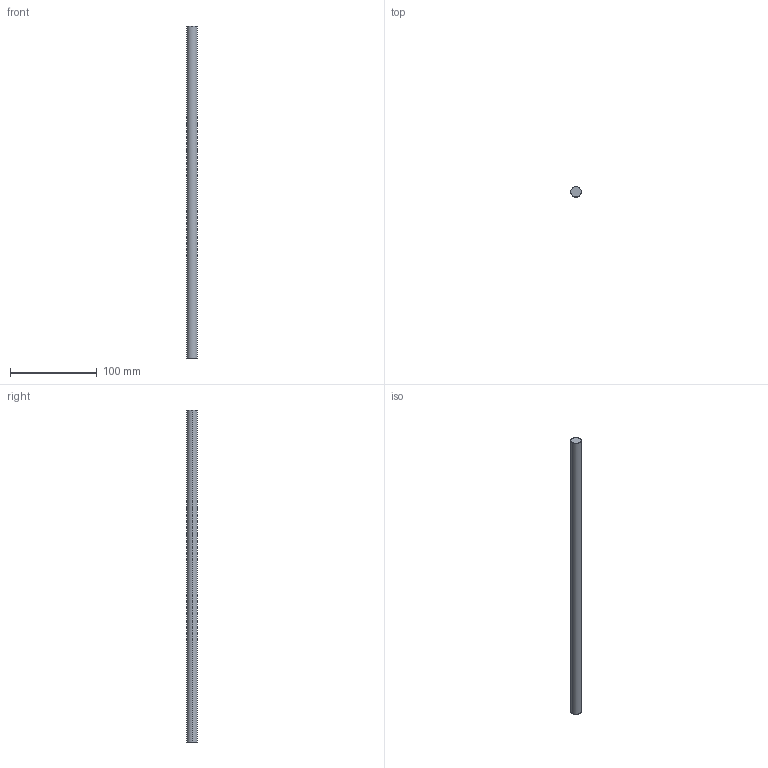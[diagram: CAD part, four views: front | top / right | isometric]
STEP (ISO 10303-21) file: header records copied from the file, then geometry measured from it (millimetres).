
FILE_DESCRIPTION (( 'STEP AP214' ), '1' );
FILE_NAME ('Innenschub H182 - S18_S19 - 500.step', '2010-09-07T14:56:02', ( 'grass' ), ( '' ), 'SwSTEP 2.0', 'SolidWorks 2010', '' );
FILE_SCHEMA (( 'AUTOMOTIVE_DESIGN' ));
Length unit declared in the file: millimetre
Products named in the file (1): Innenschub H182 - S18_S19 - 500
Bounding box: 12 x 12 x 383 mm (x, y, z)
Volume: 43316.3 mm3; surface area: 14665 mm2
Topology: 1 solids, 1 shells, 4 faces, 6 edges, 4 vertices
Faces by surface type: cylinder 2, plane 2
Entity records: 128 total; most frequent: DIRECTION 20, CARTESIAN_POINT 15, ORIENTED_EDGE 12, AXIS2_PLACEMENT_3D 9, EDGE_CURVE 6, ADVANCED_FACE 4, VERTEX_POINT 4, FACE_OUTER_BOUND 4
